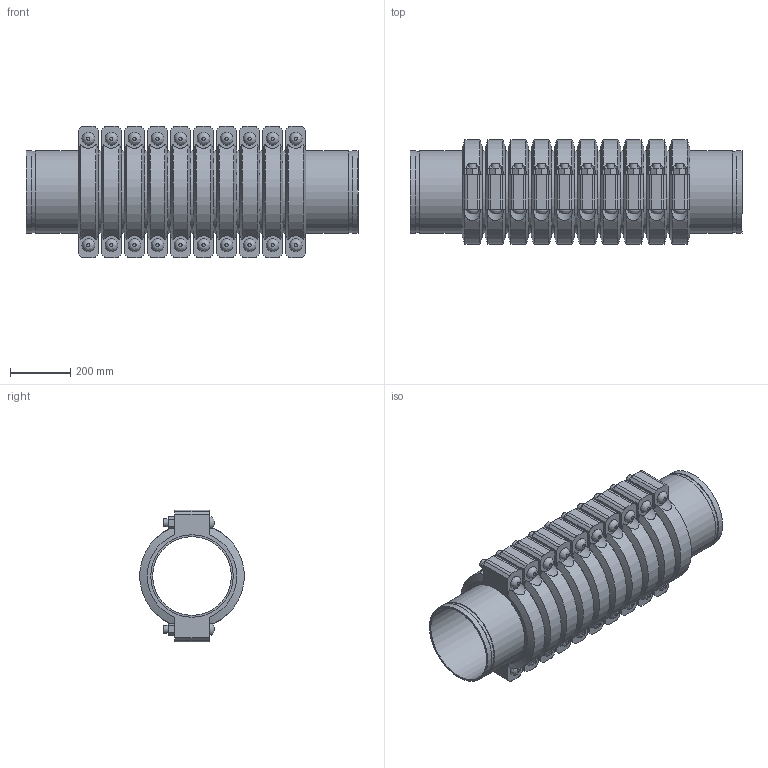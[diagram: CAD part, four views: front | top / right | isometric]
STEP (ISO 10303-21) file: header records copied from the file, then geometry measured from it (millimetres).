
FILE_DESCRIPTION(/* description */ ('VIC EXPANSION JOINT 10 COUPLINGS EXPANDED STYLE 155 (OGS)','CAx-IF Rec.Pracs.---Representation and Presentation of Product Manufacturing Information (PMI)---4.0---2014-10-13'),/* implementation_level */ '2;1');
FILE_NAME(/* name */ 'C:\Users\kkamble\AppData\Roaming\Autodesk\ApplicationPlugins\Victaulic.Temp\A992\Victaulic_IPS_Expansion Joint_Expanded_10 Couplings_Style 155 (OGS)_10 (250).stp',/* time_stamp */ '2021-06-26T23:50:21+02:00',/* author */ ('kkamble'),/* organization */ ('Victaulic'),/* preprocessor_version */ 'ST-DEVELOPER v17.2',/* originating_system */ 'Autodesk Inventor 2019',/* authorisation */ '');
FILE_SCHEMA (('AP242_MANAGED_MODEL_BASED_3D_ENGINEERING_MIM_LF { 1 0 10303 442 1 1 4 }'));
Length unit declared in the file: inch
Products named in the file (4): 155-10.0; Nipple-10.0; Nipple-10.0_1; 077-10.0
Assembly tree (21 placements, depth 2):
  155-10.0
    Nipple-10.0  x2
    Nipple-10.0_1  x9
    077-10.0  x10
Bounding box: 1098.55 x 344.9 x 435.1 mm (x, y, z)
Volume: 34444038 mm3; surface area: 4789768.5 mm2
Topology: 21 solids, 41 shells, 742 faces, 1780 edges, 1244 vertices
Faces by surface type: plane 426, cylinder 256, cone 40, bspline 20
Full cylindrical faces by diameter (mm): 25.4 x40, 27.432 x20, 260.35 x11, 264.16 x10, 268.275 x22, 273.05 x53
Entity records: 3153 total; most frequent: CARTESIAN_POINT 685, DIRECTION 497, ORIENTED_EDGE 410, EDGE_CURVE 205, AXIS2_PLACEMENT_3D 204, VERTEX_POINT 146, EDGE_LOOP 111, CIRCLE 96
